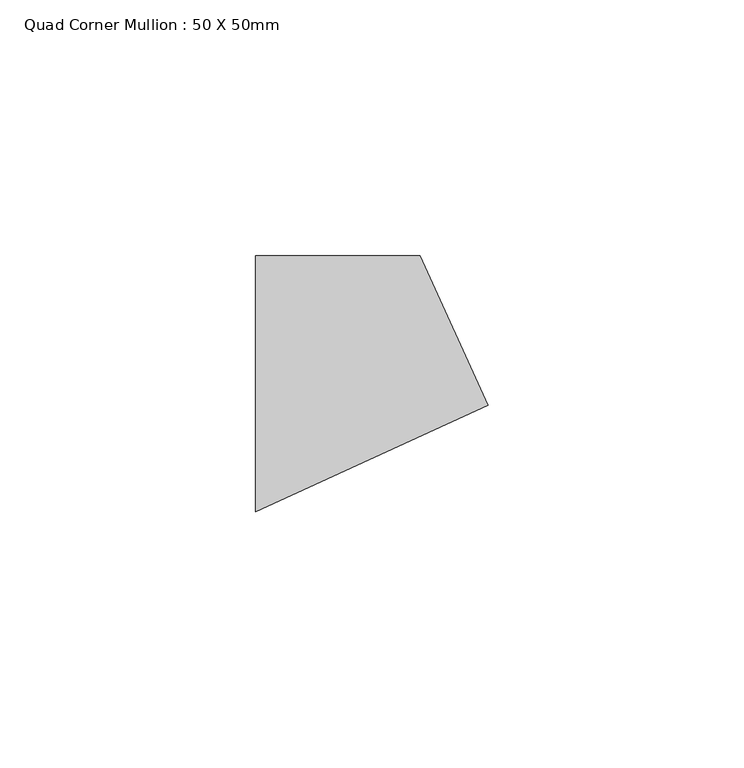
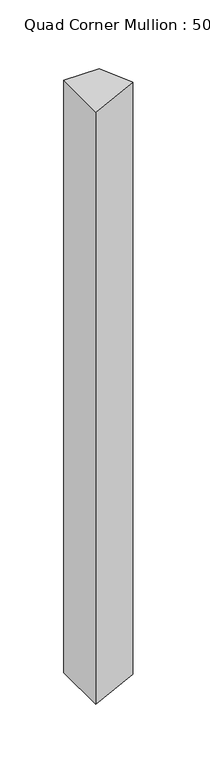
"""IFC4 building model written with IfcOpenShell, lengths in millimetres: member geometry, Quad Corner Mullion : 50 X 50mm."""

from ifc_helpers import new_model, si_unit, frame, origin, place, context, project, spatial, polyline, outline, extrude, source, transform, mapped, element, save


def quad_corner_mullion_50_x_50mm_d8a092a0(model_context):
    return source(origin(), model_context, "Body", "SweptSolid", [
        extrude(outline(polyline([(29.4125559, -4.1926582), (-16.0523154, -25.0), (-16.0523154, 25.0), (16.0523154, 25.0), (29.4125559, -4.1926582)])), frame((0.0, 0.0, -567.1747277), z_axis=(0.0, 0.0, 1.0), x_axis=(1.0, 0.0, 0.0)), (0.0, 0.0, 1.0), 567.1747277),
    ])


if __name__ == "__main__":
    model = new_model("IFC4")
    model_context = context("Model", 3, world=origin())
    ifc_project = project(units=[si_unit("LENGTHUNIT", "METRE", prefix="MILLI")], contexts=[model_context])
    site = spatial("IfcSite", under=ifc_project)
    building = spatial("IfcBuilding", under=site)
    placement = place(None, origin())
    quad_corner_mullion_50_x_50mm_shape = quad_corner_mullion_50_x_50mm_d8a092a0(model_context)
    element("IfcMember", 1, ObjectType="Quad Corner Mullion : 50 X 50mm", at=placement, inside=building, context=model_context, shape_type="MappedRepresentation", body=[
        mapped(quad_corner_mullion_50_x_50mm_shape, transform((0.0, 0.0, 0.0), x_axis=(1.0, 0.0, 0.0), y_axis=(0.0, 1.0, 0.0), z_axis=(0.0, 0.0, 1.0))),
    ])
    save(model, "model.ifc")
